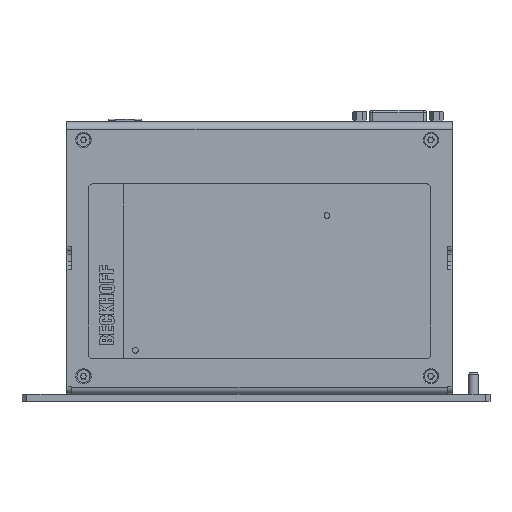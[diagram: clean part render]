
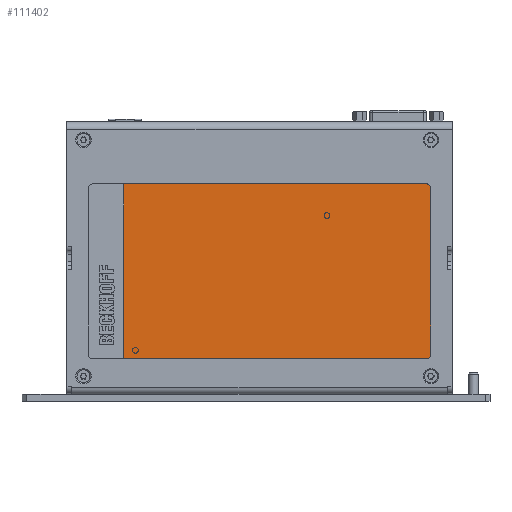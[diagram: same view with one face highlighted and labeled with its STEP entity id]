
A CAD part, left-side view. The second image highlights one B-rep face of the part: STEP entity #111402.
In plain terms, the highlighted planar face has unit normal (-1, 0, 0).
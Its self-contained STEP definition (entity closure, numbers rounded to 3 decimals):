
#9680=LINE('',#174205,#21608);
#9683=LINE('',#174211,#21611);
#9684=LINE('',#174215,#21612);
#9685=LINE('',#174218,#21613);
#21608=VECTOR('',#139508,74.);
#21611=VECTOR('',#139515,128.);
#21612=VECTOR('',#139518,70.);
#21613=VECTOR('',#139521,128.);
#28272=PLANE('',#118912);
#33858=FACE_OUTER_BOUND('',#39768,.T.);
#39768=EDGE_LOOP('',(#87911,#87912,#87913,#87914,#87915,#87916));
#43790=CIRCLE('',#118913,2.);
#43791=CIRCLE('',#118914,2.);
#50913=VERTEX_POINT('',#174203);
#50914=VERTEX_POINT('',#174204);
#50915=VERTEX_POINT('',#174210);
#50916=VERTEX_POINT('',#174212);
#50917=VERTEX_POINT('',#174214);
#50918=VERTEX_POINT('',#174216);
#64337=EDGE_CURVE('',#50913,#50914,#9680,.T.);
#64340=EDGE_CURVE('',#50914,#50915,#9683,.T.);
#64341=EDGE_CURVE('',#50915,#50916,#43790,.T.);
#64342=EDGE_CURVE('',#50916,#50917,#9684,.T.);
#64343=EDGE_CURVE('',#50917,#50918,#43791,.T.);
#64344=EDGE_CURVE('',#50918,#50913,#9685,.T.);
#87911=ORIENTED_EDGE('',*,*,#64337,.T.);
#87912=ORIENTED_EDGE('',*,*,#64340,.T.);
#87913=ORIENTED_EDGE('',*,*,#64341,.T.);
#87914=ORIENTED_EDGE('',*,*,#64342,.T.);
#87915=ORIENTED_EDGE('',*,*,#64343,.T.);
#87916=ORIENTED_EDGE('',*,*,#64344,.T.);
#111402=ADVANCED_FACE('',(#33858),#28272,.T.);
#118912=AXIS2_PLACEMENT_3D('',#174209,#139513,#139514);
#118913=AXIS2_PLACEMENT_3D('',#174213,#139516,#139517);
#118914=AXIS2_PLACEMENT_3D('',#174217,#139519,#139520);
#139508=DIRECTION('',(0.,0.,-1.));
#139513=DIRECTION('center_axis',(-1.,0.,0.));
#139514=DIRECTION('ref_axis',(0.,0.,
1.));
#139515=DIRECTION('',(0.,-1.,0.));
#139516=DIRECTION('center_axis',(-1.,0.,0.));
#139517=DIRECTION('ref_axis',(0.,0.,
1.));
#139518=DIRECTION('',(0.,0.,1.));
#139519=DIRECTION('center_axis',(-1.,0.,0.));
#139520=DIRECTION('ref_axis',(0.,1.,0.));
#139521=DIRECTION('',(0.,1.,0.));
#174203=CARTESIAN_POINT('',(-22.6,56.,92.));
#174204=CARTESIAN_POINT('',(-22.6,56.,18.));
#174205=CARTESIAN_POINT('',(-22.6,56.,36.5));
#174209=CARTESIAN_POINT('Origin',(-22.6,-1.5,55.));
#174210=CARTESIAN_POINT('',(-22.6,-72.,18.));
#174211=CARTESIAN_POINT('',(-22.6,-72.,18.));
#174212=CARTESIAN_POINT('',(-22.6,-74.,20.));
#174213=CARTESIAN_POINT('Origin',(-22.6,-72.,20.));
#174214=CARTESIAN_POINT('',(-22.6,-74.,90.));
#174215=CARTESIAN_POINT('',(-22.6,-74.,90.));
#174216=CARTESIAN_POINT('',(-22.6,-72.,92.));
#174217=CARTESIAN_POINT('Origin',(-22.6,-72.,90.));
#174218=CARTESIAN_POINT('',(-22.6,69.,92.));
